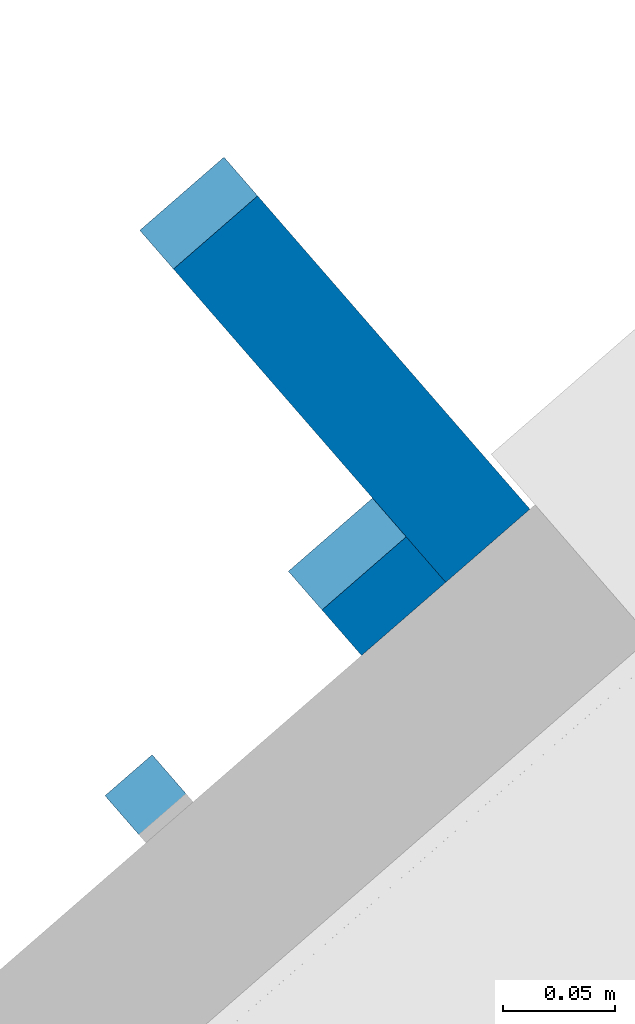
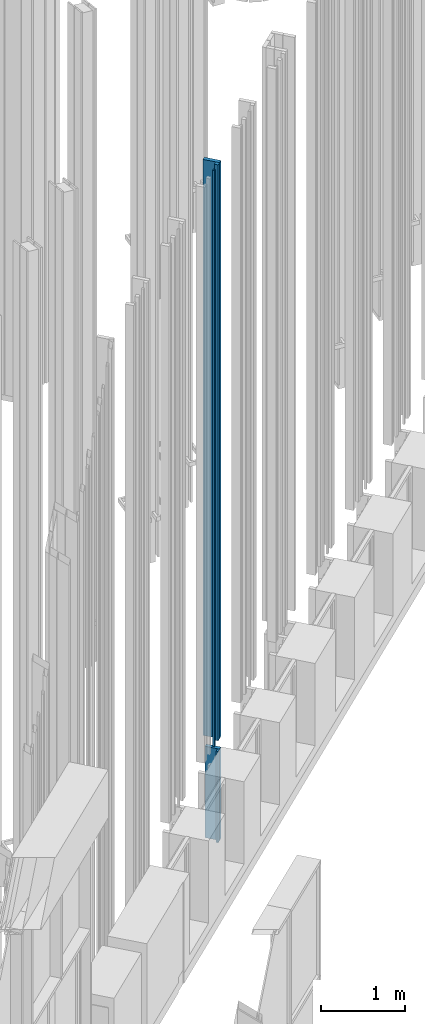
# One storey, part 231 of 390: 5 walls.
"""IFC2X3 building model written with IfcOpenShell, lengths in millimetres."""

from ifc_helpers import new_model, entity, si_unit, converted_unit, derived_unit, money_unit, direction, frame, origin_with_axes, place, context, subcontext, project, spatial, faceted_brep, material, type_object, element, save


model = new_model("IFC2X3")

# Units and contexts
model_context = context("Model", 3, precision=1e-05, world=origin_with_axes(), true_north=direction((0.0, 1.0)))
body_context = subcontext(model_context, "Body", "Model", "MODEL_VIEW")
ifc_project = project(units=[si_unit("LENGTHUNIT", "METRE", prefix="MILLI"), si_unit("AREAUNIT", "SQUARE_METRE"), si_unit("VOLUMEUNIT", "CUBIC_METRE"), converted_unit("PLANEANGLEUNIT", "DEGREE", entity("IfcPlaneAngleMeasure", 0.0174532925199), si_unit("PLANEANGLEUNIT", "RADIAN"), dimensions=[0, 0, 0, 0, 0, 0, 0]), si_unit("SOLIDANGLEUNIT", "STERADIAN"), money_unit("EUR"), converted_unit("TIMEUNIT", "Year", entity("IfcTimeMeasure", 31556926.0), si_unit("TIMEUNIT", "SECOND"), dimensions=[0, 0, 1, 0, 0, 0, 0]), si_unit("MASSUNIT", "GRAM", prefix="KILO"), si_unit("THERMODYNAMICTEMPERATUREUNIT", "DEGREE_CELSIUS"), si_unit("LUMINOUSINTENSITYUNIT", "LUMEN"), si_unit("ENERGYUNIT", "JOULE", prefix="MEGA"), derived_unit("THERMALCONDUCTANCEUNIT", [(si_unit("POWERUNIT", "WATT"), 1), (si_unit("LENGTHUNIT", "METRE"), -1), (si_unit("THERMODYNAMICTEMPERATUREUNIT", "KELVIN"), -1)]), derived_unit("SPECIFICHEATCAPACITYUNIT", [(si_unit("ENERGYUNIT", "JOULE"), 1), (si_unit("MASSUNIT", "GRAM", prefix="KILO"), -1), (si_unit("THERMODYNAMICTEMPERATUREUNIT", "KELVIN"), -1)]), derived_unit("MASSDENSITYUNIT", [(si_unit("MASSUNIT", "GRAM", prefix="KILO"), 1), (si_unit("VOLUMEUNIT", "CUBIC_METRE"), -1)])], contexts=[model_context])

# Site, building, storey
site_placement = place(None, origin_with_axes())
site = spatial("IfcSite", under=ifc_project, at=site_placement, Name="Site", CompositionType="ELEMENT")
building_placement = place(site_placement, origin_with_axes())
building = spatial("IfcBuilding", under=site, at=building_placement, Name="Building", CompositionType="ELEMENT")
storey_placement = place(building_placement, origin_with_axes())
storey = spatial("IfcBuildingStorey", under=building, at=storey_placement, Name="1 korrus", CompositionType="ELEMENT", Elevation=0.0)

# Walls
ifc_material = material(Name="Site specified")
wall_type = type_object("IfcWallType", Name="Puitfassaadi ribistik", PredefinedType="NOTDEFINED")
wall_1_placement = place(storey_placement, frame((140294.23181, 91977.7557496, 1484.19259749), z_axis=(0.0, 0.0, 1.0), x_axis=(0.754709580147, 0.656059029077, 0.0)))
element("IfcWall", 1, at=wall_1_placement, inside=storey, type_object=wall_type, material=ifc_material, Name="Site specified", context=body_context, shape_type="Brep", body=[
    faceted_brep([(14.0, 14.0, 8380.80740251), (14.0, 14.0, 0.0), (-14.0, 14.0, 0.0), (-14.0, 14.0, 8380.80740251), (14.0, -14.0, 8380.80740251), (14.0, -14.0, 0.0), (-14.0, -14.0, 0.0), (-14.0, -14.0, 8380.80740251)], [[[0, 1, 2, 3]], [[4, 5, 1, 0]], [[2, 1, 5, 6]], [[3, 2, 6, 7]], [[4, 0, 3, 7]], [[7, 6, 5, 4]]]),
])
wall_2_placement = place(storey_placement, frame((140391.919792, 92077.2497601, 1484.19259749), z_axis=(0.0, 0.0, 1.0), x_axis=(0.754709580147, 0.656059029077, 0.0)))
element("IfcWall", 2, at=wall_2_placement, inside=storey, type_object=wall_type, material=ifc_material, Name="Site specified", context=body_context, shape_type="Brep", body=[
    faceted_brep([(25.0, 25.0, 8380.80740251), (25.0, 25.0, 0.0), (-25.0, 25.0, 0.0), (-25.0, 25.0, 8380.80740251), (25.0, -25.0, 8380.80740251), (25.0, -25.0, 0.0), (-25.0, -25.0, 0.0), (-25.0, -25.0, 8380.80740251)], [[[0, 1, 2, 3]], [[4, 5, 1, 0]], [[2, 1, 5, 6]], [[3, 2, 6, 7]], [[4, 0, 3, 7]], [[7, 6, 5, 4]]]),
])
wall_3_placement = place(storey_placement, frame((140377.498579, 92170.0521231, 1484.19259749), z_axis=(0.0, 0.0, 1.0), x_axis=(0.754709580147, 0.656059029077, 0.0)))
element("IfcWall", 3, at=wall_3_placement, inside=storey, type_object=wall_type, material=ifc_material, Name="Site specified", context=body_context, shape_type="Brep", body=[
    faceted_brep([(25.0, 104.5, 8380.80740251), (25.0, 104.5, 0.0), (-25.0, 104.5, 0.0), (-25.0, 104.5, 8380.80740251), (25.0, -104.5, 8380.80740251), (25.0, -104.5, 0.0), (-25.0, -104.5, 0.0), (-25.0, -104.5, 8380.80740251)], [[[0, 1, 2, 3]], [[4, 5, 1, 0]], [[2, 1, 5, 6]], [[3, 2, 6, 7]], [[4, 0, 3, 7]], [[7, 6, 5, 4]]]),
])
wall_4_placement = place(storey_placement, frame((140392.587936, 92152.6938025, 0.0), z_axis=(0.0, 0.0, 1.0), x_axis=(0.754709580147, 0.656059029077, 0.0)))
element("IfcWall", 4, at=wall_4_placement, inside=storey, type_object=wall_type, material=ifc_material, Name="Site specified", context=body_context, shape_type="Brep", body=[
    faceted_brep([(-25.0, 104.5, 1330.0), (-25.0, -81.5098525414, 1330.0), (25.0000000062, -81.5099709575, 1330.0), (25.0, 104.5, 1330.0), (-25.0, 104.5, 0.0), (-25.0, -81.5124910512, 0.0), (25.0, -81.5126042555, 0.0), (25.0, 104.5, 0.0)], [[[0, 1, 2, 3]], [[4, 5, 1, 0]], [[5, 6, 2, 1]], [[3, 2, 6, 7]], [[0, 3, 7, 4]], [[7, 6, 5, 4]]]),
])
wall_5_placement = place(storey_placement, frame((140407.00915, 92059.8914394, 0.0), z_axis=(0.0, 0.0, 1.0), x_axis=(0.754709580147, 0.656059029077, 0.0)))
element("IfcWall", 5, at=wall_5_placement, inside=storey, type_object=wall_type, material=ifc_material, Name="Site specified", context=body_context, shape_type="Brep", body=[
    faceted_brep([(-25.0, 25.0, 1330.0), (-25.0, -2.00973412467, 1330.0), (25.0000000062, -2.00985254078, 1330.0), (25.0, 25.0, 1330.0), (-25.0, 25.0, 0.0), (-25.0, -2.01237784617, 0.0), (25.0, -2.01249105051, 0.0), (25.0, 25.0, 0.0)], [[[0, 1, 2, 3]], [[4, 5, 1, 0]], [[5, 6, 2, 1]], [[3, 2, 6, 7]], [[0, 3, 7, 4]], [[7, 6, 5, 4]]]),
])

save(model, "model.ifc")
